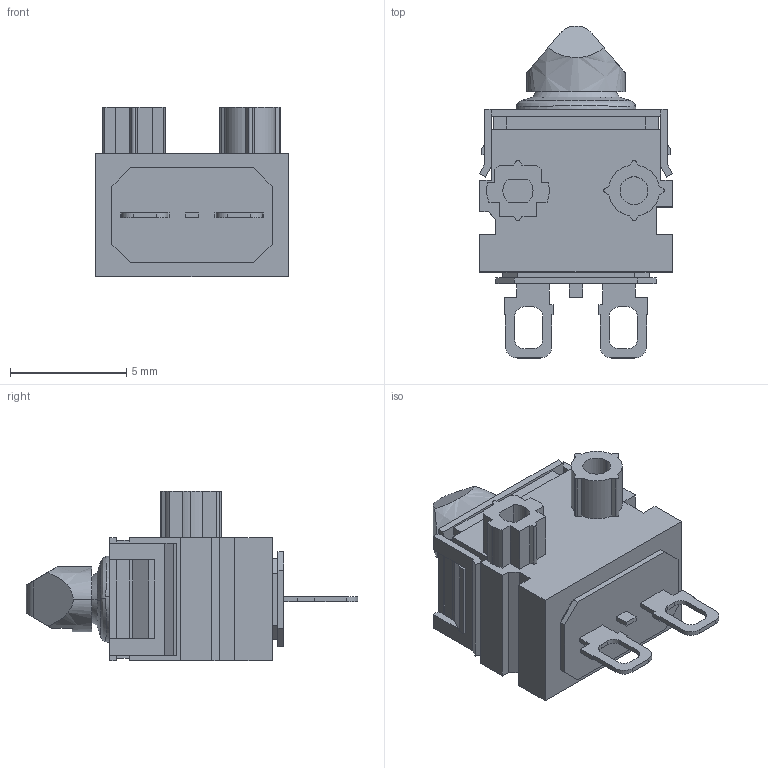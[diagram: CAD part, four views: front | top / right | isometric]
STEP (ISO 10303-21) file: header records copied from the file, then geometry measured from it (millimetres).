
FILE_DESCRIPTION (( 'STEP AP214' ), '1' );
FILE_NAME ('D2EW_B03H.step', '2023-02-17T07:53:47', ( 'OSMC1.0 ' ), ( ' ' ), 'SwSTEP 2.0', 'SolidWorks 2002025', '' );
FILE_SCHEMA (( 'AUTOMOTIVE_DESIGN' ));
Length unit declared in the file: millimetre
Products named in the file (3): D2EW_B03H; D2EW_B03H_BUTTON; D2EW_B03H_BASE
Assembly tree (2 placements, depth 2):
  D2EW_B03H
    D2EW_B03H_BASE
    D2EW_B03H_BUTTON
Bounding box: 8.3 x 14.3 x 7.3 mm (x, y, z)
Volume: 311.5 mm3; surface area: 514.1 mm2
Topology: 2 solids, 2 shells, 215 faces, 598 edges, 392 vertices
Faces by surface type: plane 169, cylinder 34, bspline 12
Entity records: 10672 total; most frequent: CARTESIAN_POINT 3964, ORIENTED_EDGE 1196, DIRECTION 1044, EDGE_CURVE 598, LINE 492, VECTOR 492, VERTEX_POINT 392, AXIS2_PLACEMENT_3D 276
